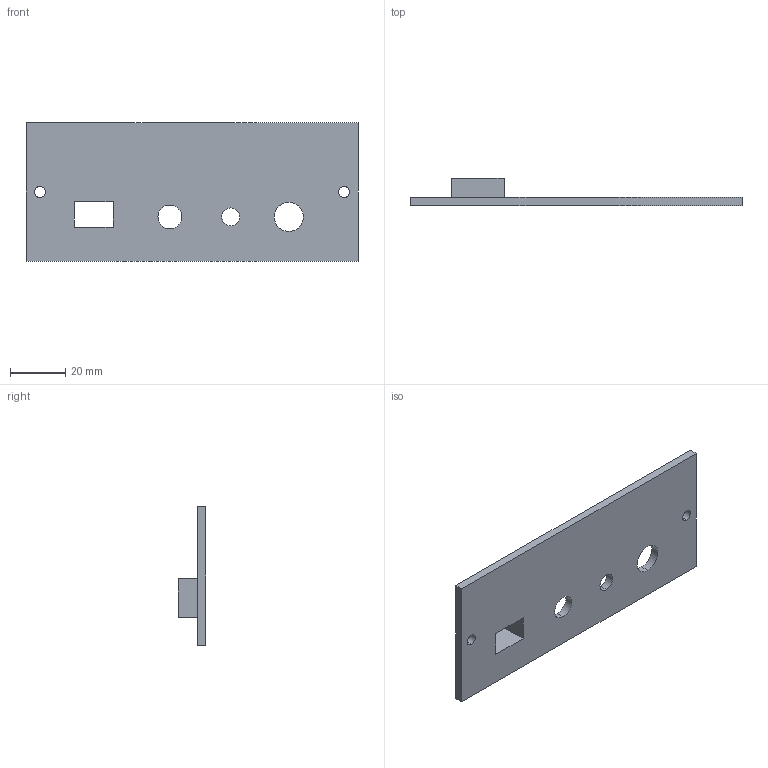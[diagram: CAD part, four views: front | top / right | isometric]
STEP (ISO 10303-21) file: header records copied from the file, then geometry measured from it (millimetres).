
FILE_DESCRIPTION (( 'STEP AP203' ), '1' );
FILE_NAME ('v3backplate.STEP', '2017-06-25T11:39:47', ( '' ), ( '' ), 'SwSTEP 2.0', 'SolidWorks 2016', '' );
FILE_SCHEMA (( 'CONFIG_CONTROL_DESIGN' ));
Length unit declared in the file: millimetre
Products named in the file (1): v3backplate
Bounding box: 120 x 10 x 50 mm (x, y, z)
Volume: 17965 mm3; surface area: 13599.1 mm2
Topology: 1 solids, 1 shells, 25 faces, 66 edges, 44 vertices
Faces by surface type: plane 15, cylinder 10
Entity records: 881 total; most frequent: DIRECTION 138, CARTESIAN_POINT 136, ORIENTED_EDGE 132, EDGE_CURVE 66, LINE 46, AXIS2_PLACEMENT_3D 46, VECTOR 46, VERTEX_POINT 44
